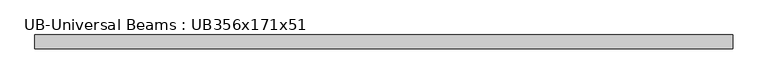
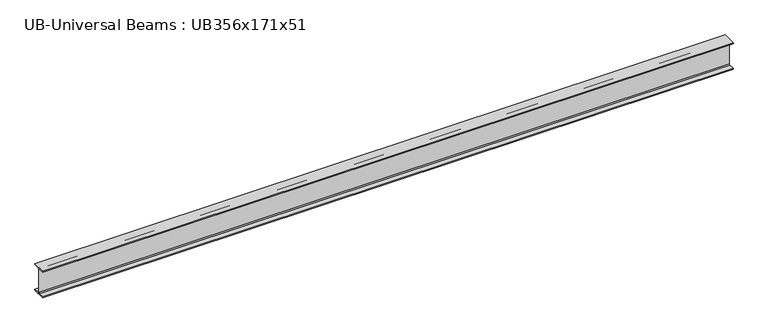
"""IFC4 building model written with IfcOpenShell, lengths in millimetres: beam geometry, UB-Universal Beams : UB356x171x51."""

from ifc_helpers import new_model, si_unit, point, frame, frame_2d, origin, place, context, project, spatial, polyline, circle_curve, trimmed, segment, composite_curve, outline, extrude, source, transform, mapped, element, save


def ub_universal_beams_ub356x171x51_e97f8d2e(model_context):
    return source(origin(), model_context, "Body", "SweptSolid", [
        extrude(outline(composite_curve([segment(polyline([(85.75, -166.0), (85.75, -177.5), (-85.75, -177.5), (-85.75, -166.0), (-13.9, -166.0)]), True, "CONTINUOUS"), segment(trimmed(circle_curve(frame_2d((-13.9, -155.8)), 10.2), [point((-13.9, -166.0))], [point((-3.7, -155.8))], True, "CARTESIAN"), True, "CONTINUOUS"), segment(polyline([(-3.7, -155.8), (-3.7, 155.8)]), True, "CONTINUOUS"), segment(trimmed(circle_curve(frame_2d((-13.9, 155.8)), 10.2), [point((-3.7, 155.8))], [point((-13.9, 166.0))], True, "CARTESIAN"), True, "CONTINUOUS"), segment(polyline([(-13.9, 166.0), (-85.75, 166.0), (-85.75, 177.5), (85.75, 177.5), (85.75, 166.0), (13.9, 166.0)]), True, "CONTINUOUS"), segment(trimmed(circle_curve(frame_2d((13.9, 155.8)), 10.2), [point((13.9, 166.0))], [point((3.7, 155.8))], True, "CARTESIAN"), True, "CONTINUOUS"), segment(polyline([(3.7, 155.8), (3.7, -155.8)]), True, "CONTINUOUS"), segment(trimmed(circle_curve(frame_2d((13.9, -155.8)), 10.2), [point((3.7, -155.8))], [point((13.9, -166.0))], True, "CARTESIAN"), True, "CONTINUOUS"), segment(polyline([(13.9, -166.0), (85.75, -166.0)]), True, "CONTINUOUS")], self_intersect=False)), frame((-4346.6, 0.0, 0.0), z_axis=(1.0, 0.0, 0.0), x_axis=(0.0, 1.0, 0.0)), (0.0, 0.0, 1.0), 8753.2),
    ])


if __name__ == "__main__":
    model = new_model("IFC4")
    model_context = context("Model", 3, world=origin())
    ifc_project = project(units=[si_unit("LENGTHUNIT", "METRE", prefix="MILLI")], contexts=[model_context])
    site = spatial("IfcSite", under=ifc_project)
    building = spatial("IfcBuilding", under=site)
    placement = place(None, origin())
    ub_universal_beams_ub356x171x51_shape = ub_universal_beams_ub356x171x51_e97f8d2e(model_context)
    element("IfcBeam", 1, ObjectType="UB-Universal Beams : UB356x171x51", at=placement, inside=building, context=model_context, shape_type="MappedRepresentation", body=[
        mapped(ub_universal_beams_ub356x171x51_shape, transform((0.0, 0.0, 0.0), x_axis=(1.0, 0.0, 0.0), y_axis=(0.0, 1.0, 0.0), z_axis=(0.0, 0.0, 1.0))),
    ])
    save(model, "model.ifc")
